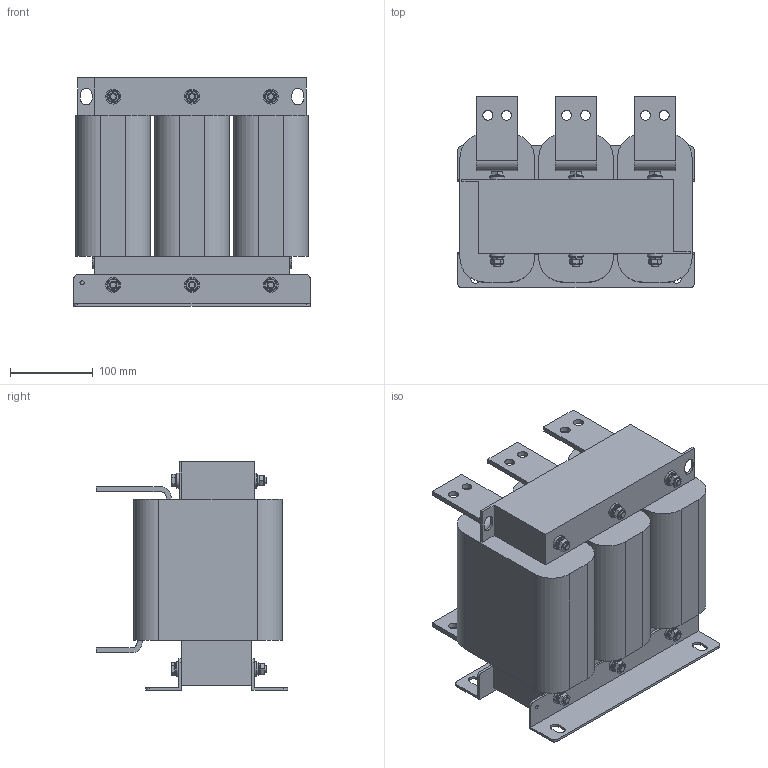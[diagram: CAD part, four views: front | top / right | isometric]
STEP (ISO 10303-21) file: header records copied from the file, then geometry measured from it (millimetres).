
FILE_DESCRIPTION(('STEP AP203'), '1');
FILE_NAME('栖闉罻 _ ISF-280_543-4', '', ('UNSPECIFIED'), ('UNSPECIFIED'), 'ASCON STEP Converter 1.6', 'ASCON Math Kernel', '');
FILE_SCHEMA(('CONFIG_CONTROL_DESIGN'));
Length unit declared in the file: millimetre
Products named in the file (12): ISF-280_543-4
Assembly tree (55 placements, depth 2):
  ISF-280_543-4
    ISF-280_543-4
    ISF-280_543-4  x2
    ISF-280_543-4  x3
    ISF-280_543-4
    ISF-280_543-4  x3
    ISF-280_543-4  x3
    ISF-280_543-4  x12
    ISF-280_543-4  x12
    ISF-280_543-4  x6
    ISF-280_543-4  x6
    ISF-280_543-4  x6
Bounding box: 285 x 230.5 x 275 mm (x, y, z)
Volume: 10162643.4 mm3; surface area: 686964.8 mm2
Topology: 55 solids, 55 shells, 588 faces, 1254 edges, 782 vertices
Faces by surface type: plane 428, cylinder 130, cone 18, torus 12
Full cylindrical faces by diameter (mm): 5 x2, 8 x48, 12 x12, 15 x12, 18 x12
Entity records: 6240 total; most frequent: CARTESIAN_POINT 1058, DIRECTION 816, ORIENTED_EDGE 650, EDGE_CURVE 325, AXIS2_PLACEMENT_3D 291, LINE 234, VECTOR 234, VERTEX_POINT 223
